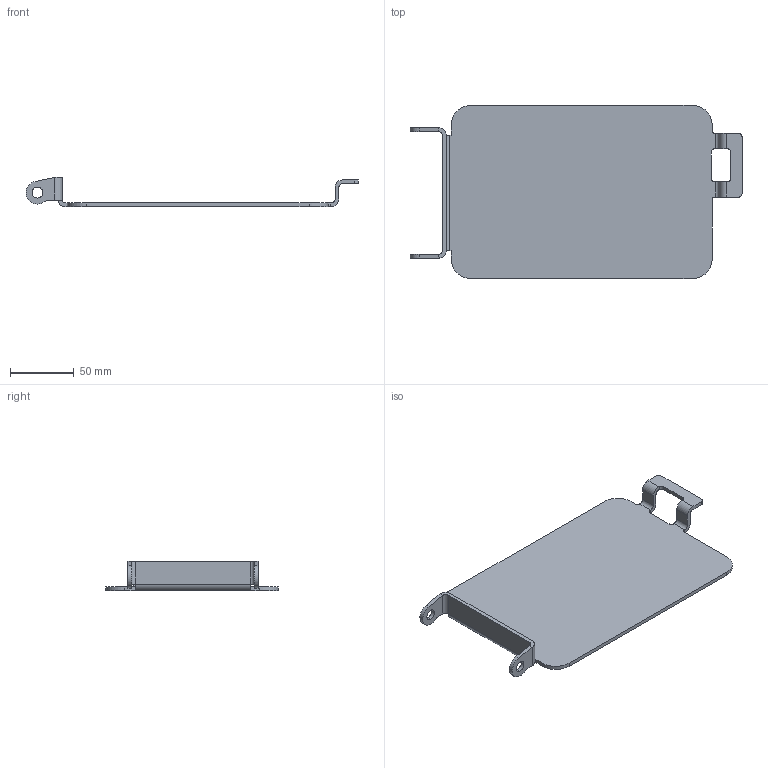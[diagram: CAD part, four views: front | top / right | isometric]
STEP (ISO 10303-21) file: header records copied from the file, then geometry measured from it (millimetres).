
FILE_DESCRIPTION((''),'2;1');
FILE_NAME('288096','2022-12-13T14:09:46',('vmorco'),(''),'CREO PARAMETRIC BY PTC INC, 2020454','CREO PARAMETRIC BY PTC INC, 2020454','');
FILE_SCHEMA(('AUTOMOTIVE_DESIGN { 1 0 10303 214 1 1 1 1 }'));
Length unit declared in the file: millimetre
Products named in the file (1): 288096
Bounding box: 261 x 136 x 23 mm (x, y, z)
Volume: 96030.4 mm3; surface area: 67101.2 mm2
Topology: 1 solids, 1 shells, 68 faces, 194 edges, 126 vertices
Faces by surface type: plane 34, cylinder 34
Entity records: 2309 total; most frequent: DIRECTION 398, CARTESIAN_POINT 390, ORIENTED_EDGE 388, EDGE_CURVE 194, AXIS2_PLACEMENT_3D 136, VECTOR 126, LINE 126, VERTEX_POINT 126
